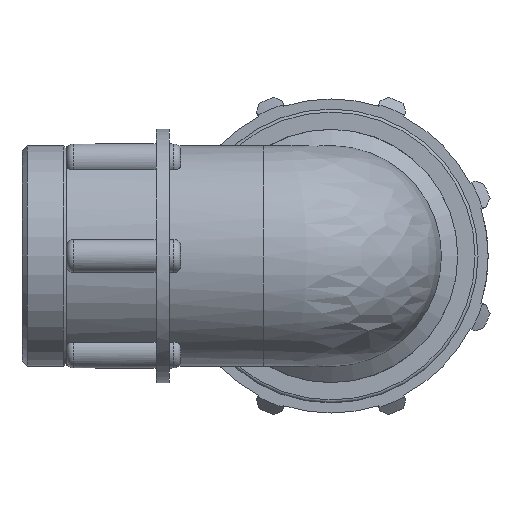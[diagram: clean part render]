
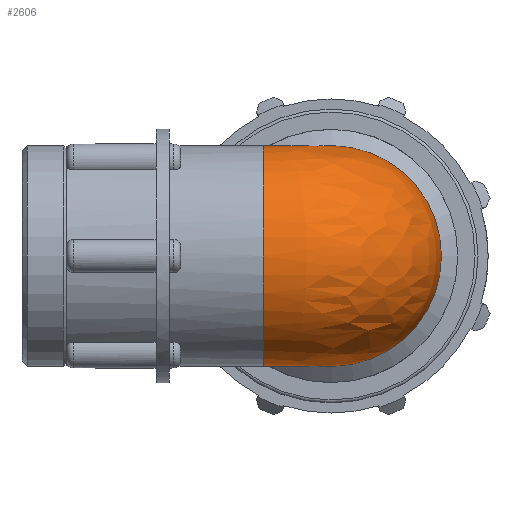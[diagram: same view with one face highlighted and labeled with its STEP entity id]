
A CAD part, left-side view. The second image highlights one B-rep face of the part: STEP entity #2606.
In plain terms, the highlighted free-form (B-spline) face has degree [2, 2] with [7, 3] control points.
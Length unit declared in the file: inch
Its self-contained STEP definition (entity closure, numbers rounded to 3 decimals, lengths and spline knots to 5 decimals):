
#63=(
BOUNDED_SURFACE()
B_SPLINE_SURFACE(2,2,((#4450,#4451,#4452),(#4453,#4454,#4455),(#4456,#4457,
#4458),(#4459,#4460,#4461),(#4462,#4463,#4464),(#4465,#4466,#4467),(#4468,
#4469,#4470)),.UNSPECIFIED.,.F.,.F.,.F.)
B_SPLINE_SURFACE_WITH_KNOTS((3,2,2,3),(3,3),(-2.23367,-0.74456,
0.74456,2.23367),(-3.14159,-1.5708),
 .UNSPECIFIED.)
GEOMETRIC_REPRESENTATION_ITEM()
RATIONAL_B_SPLINE_SURFACE(((1.,0.707,1.),(0.735,
0.52,0.735),(1.,0.707,1.),(0.735,
0.52,0.735),(1.,0.707,1.),(0.735,
0.52,0.735),(1.,0.707,1.)))
REPRESENTATION_ITEM('')
SURFACE()
);
#511=FACE_OUTER_BOUND('',#651,.T.);
#651=EDGE_LOOP('',(#1883,#1884));
#820=CIRCLE('',#2827,0.61717);
#837=CIRCLE('',#2857,0.61717);
#1054=VERTEX_POINT('',#4360);
#1055=VERTEX_POINT('',#4362);
#1349=EDGE_CURVE('',#1055,#1054,#820,.T.);
#1373=EDGE_CURVE('',#1055,#1054,#837,.T.);
#1883=ORIENTED_EDGE('',*,*,#1349,.T.);
#1884=ORIENTED_EDGE('',*,*,#1373,.F.);
#2606=ADVANCED_FACE('',(#511),#63,.F.);
#2827=AXIS2_PLACEMENT_3D('',#4363,#3294,#3295);
#2857=AXIS2_PLACEMENT_3D('',#4421,#3355,#3356);
#3294=DIRECTION('center_axis',(0.,-1.,0.));
#3295=DIRECTION('ref_axis',(-1.,0.,0.));
#3355=DIRECTION('center_axis',(1.,0.,0.));
#3356=DIRECTION('ref_axis',(0.,-1.,0.));
#4360=CARTESIAN_POINT('',(0.3798,0.3798,-0.48647));
#4362=CARTESIAN_POINT('',(0.3798,0.3798,0.48647));
#4363=CARTESIAN_POINT('Origin',(0.,0.3798,
0.));
#4421=CARTESIAN_POINT('Origin',(0.3798,0.,
0.));
#4450=CARTESIAN_POINT('Ctrl Pts',(0.3798,0.3798,-0.48647));
#4451=CARTESIAN_POINT('Ctrl Pts',(0.3798,0.3798,-0.48647));
#4452=CARTESIAN_POINT('Ctrl Pts',(0.3798,0.3798,-0.48647));
#4453=CARTESIAN_POINT('Ctrl Pts',(-0.06848,0.3798,
-0.83644));
#4454=CARTESIAN_POINT('Ctrl Pts',(-0.06848,-0.06848,
-0.83644));
#4455=CARTESIAN_POINT('Ctrl Pts',(0.3798,-0.06848,-0.83644));
#4456=CARTESIAN_POINT('Ctrl Pts',(-0.45386,0.3798,
-0.41822));
#4457=CARTESIAN_POINT('Ctrl Pts',(-0.45386,-0.45386,
-0.41822));
#4458=CARTESIAN_POINT('Ctrl Pts',(0.3798,-0.45386,
-0.41822));
#4459=CARTESIAN_POINT('Ctrl Pts',(-0.83924,0.3798,
0.));
#4460=CARTESIAN_POINT('Ctrl Pts',(-0.83924,-0.83924,
0.));
#4461=CARTESIAN_POINT('Ctrl Pts',(0.3798,-0.83924,
0.));
#4462=CARTESIAN_POINT('Ctrl Pts',(-0.45386,0.3798,
0.41822));
#4463=CARTESIAN_POINT('Ctrl Pts',(-0.45386,-0.45386,
0.41822));
#4464=CARTESIAN_POINT('Ctrl Pts',(0.3798,-0.45386,
0.41822));
#4465=CARTESIAN_POINT('Ctrl Pts',(-0.06848,0.3798,
0.83644));
#4466=CARTESIAN_POINT('Ctrl Pts',(-0.06848,-0.06848,
0.83644));
#4467=CARTESIAN_POINT('Ctrl Pts',(0.3798,-0.06848,0.83644));
#4468=CARTESIAN_POINT('Ctrl Pts',(0.3798,0.3798,0.48647));
#4469=CARTESIAN_POINT('Ctrl Pts',(0.3798,0.3798,0.48647));
#4470=CARTESIAN_POINT('Ctrl Pts',(0.3798,0.3798,0.48647));
